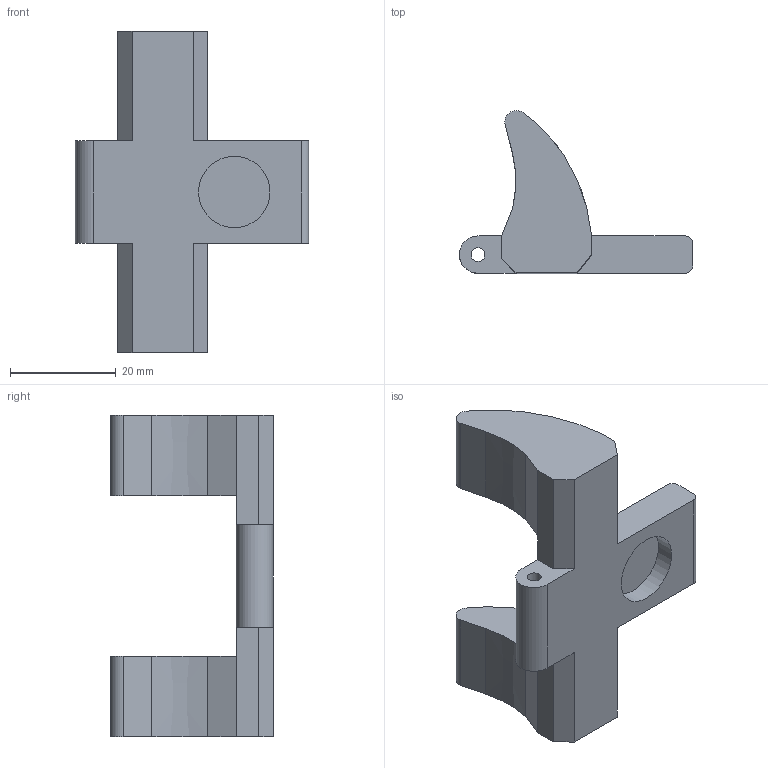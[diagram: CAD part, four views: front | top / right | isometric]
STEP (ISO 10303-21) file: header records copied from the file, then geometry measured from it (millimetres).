
FILE_DESCRIPTION(/* description */ (''),/* implementation_level */ '2;1');
FILE_NAME(/* name */ 'Trigger Release.stp',/* time_stamp */ '2026-08-23T08:20:45-06:00',/* author */ (''),/* organization */ (''),/* preprocessor_version */ 'ST-DEVELOPER v18.102',/* originating_system */ 'SIEMENS PLM Software NX 2027',/* authorisation */ '');
FILE_SCHEMA (('AUTOMOTIVE_DESIGN { 1 0 10303 214 3 1 1 1 }'));
Length unit declared in the file: inch
Products named in the file (1): Trigger Release
Bounding box: 44.14 x 30.76 x 60.82 mm (x, y, z)
Volume: 17740.3 mm3; surface area: 6836.9 mm2
Topology: 1 solids, 1 shells, 37 faces, 98 edges, 64 vertices
Faces by surface type: plane 24, cylinder 7, extrusion 6
Full cylindrical faces by diameter (mm): 2.632 x1, 13.506 x1
Entity records: 1220 total; most frequent: CARTESIAN_POINT 288, ORIENTED_EDGE 192, DIRECTION 168, EDGE_CURVE 96, VECTOR 76, LINE 70, VERTEX_POINT 64, AXIS2_PLACEMENT_3D 46
